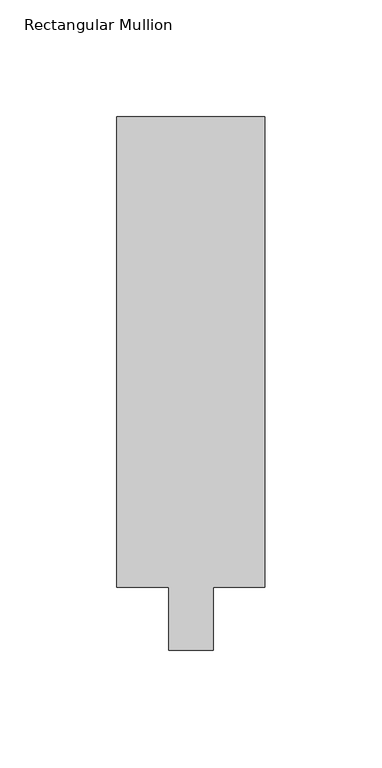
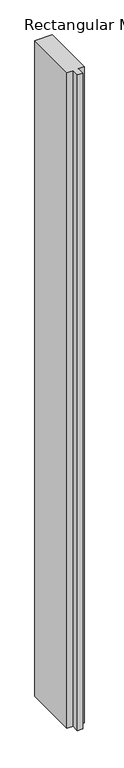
"""IFC4 building model written with IfcOpenShell, lengths in millimetres: member geometry."""

from ifc_helpers import new_model, si_unit, frame, origin, place, context, project, spatial, polyline, outline, extrude, source, transform, mapped, element, save


def rectangular_mullion_bb15ac4e(model_context):
    return source(origin(), model_context, "Body", "SweptSolid", [
        extrude(outline(polyline([(-63.5, 228.6), (0.0, 228.6), (0.0, 26.9875), (-22.225, 26.9875), (-22.225, 0.0), (-41.275, 0.0), (-41.275, 26.9875), (-63.5, 26.9875), (-63.5, 228.6)])), frame((0.0, 0.0, -2517.3116285), z_axis=(0.0, 0.0, 1.0), x_axis=(1.0, 0.0, 0.0)), (0.0, 0.0, 1.0), 2517.3116285),
    ])


if __name__ == "__main__":
    model = new_model("IFC4")
    model_context = context("Model", 3, world=origin())
    ifc_project = project(units=[si_unit("LENGTHUNIT", "METRE", prefix="MILLI")], contexts=[model_context])
    site = spatial("IfcSite", under=ifc_project)
    building = spatial("IfcBuilding", under=site)
    placement = place(None, origin())
    rectangular_mullion_shape = rectangular_mullion_bb15ac4e(model_context)
    element("IfcMember", 1, ObjectType="Rectangular Mullion : 2 1/2\" x 8\" - Capless", at=placement, inside=building, context=model_context, shape_type="MappedRepresentation", body=[
        mapped(rectangular_mullion_shape, transform((0.0, 0.0, 0.0), x_axis=(1.0, 0.0, 0.0), y_axis=(0.0, 1.0, 0.0), z_axis=(0.0, 0.0, 1.0))),
    ])
    save(model, "model.ifc")
